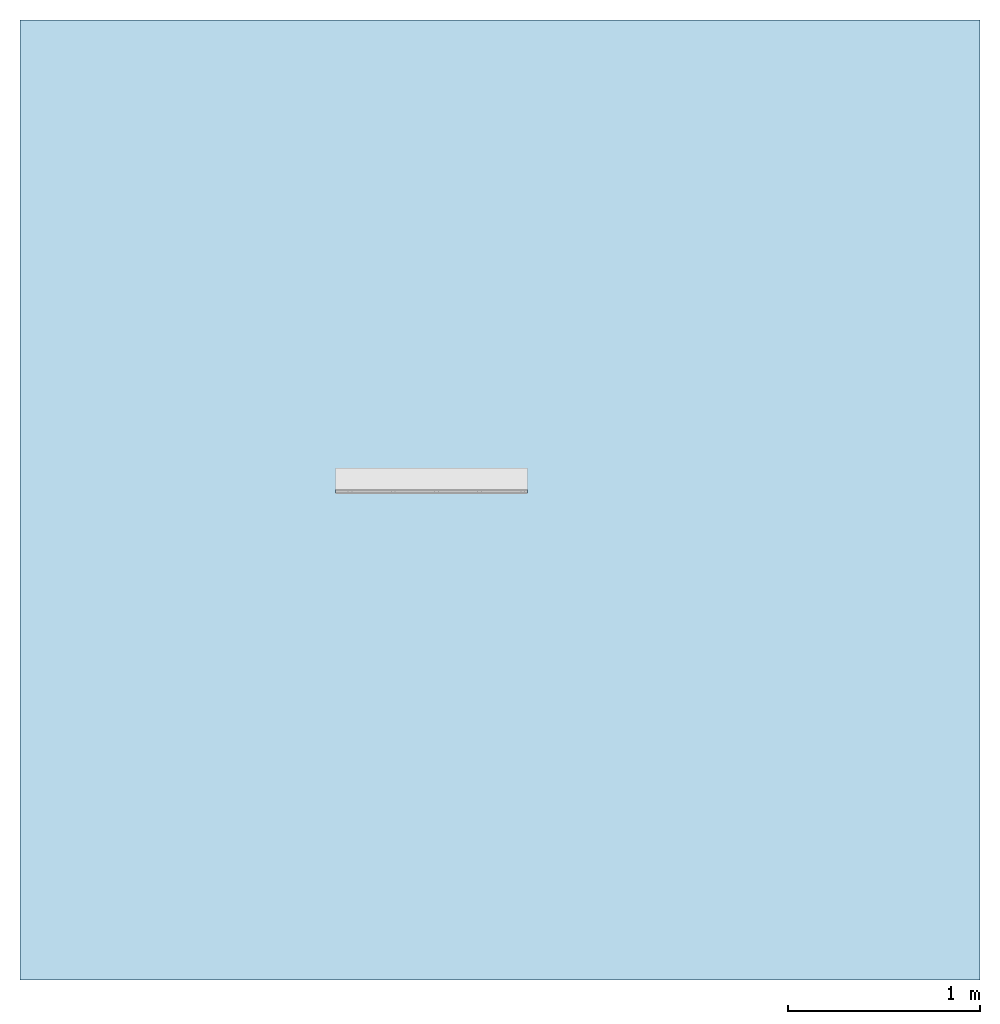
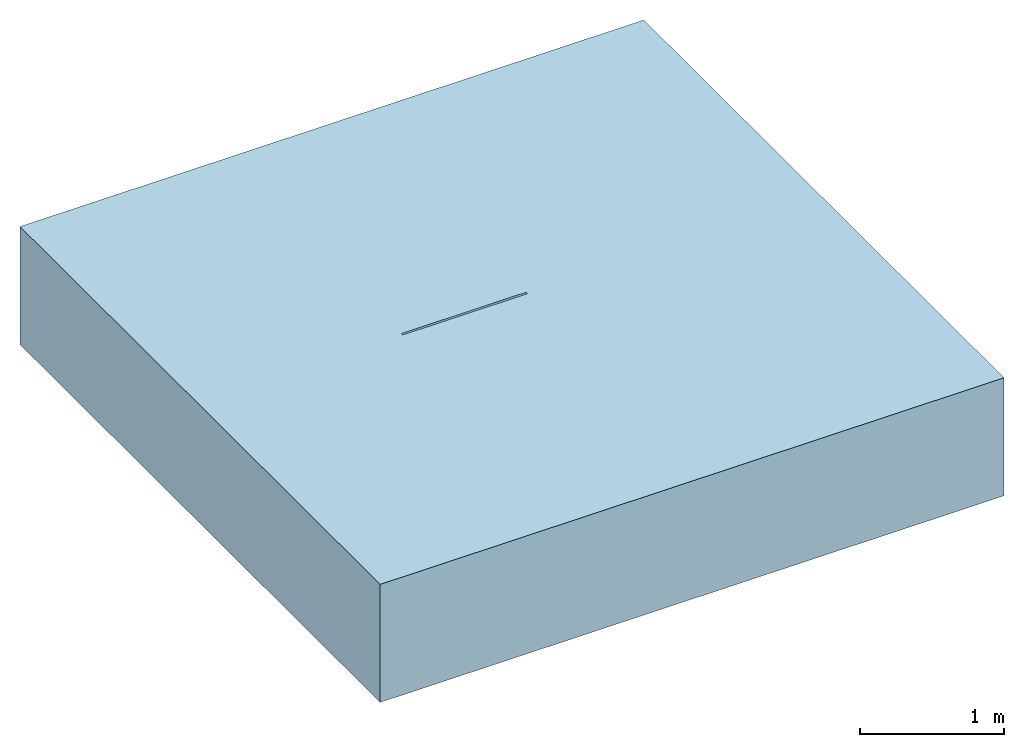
# One storey, part 1 of 2: 1 slab, 2 openings.
"""IFC2X3 building model written with IfcOpenShell, lengths in millimetres."""

from ifc_helpers import new_model, entity, si_unit, converted_unit, direction, frame, frame_2d, origin, place, context, subcontext, project, spatial, polyline, rectangle, outline, extrude, material, layer, layer_set, layer_usage, element, save


model = new_model("IFC2X3")

# Units and contexts
model_context = context("Model", 3, precision=1e-06, world=origin(), true_north=direction((2.0, 6.12303176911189e-17, 1.0)))
context_of_model = context(None, 3, precision=1e-06, world=origin(), true_north=direction((2.0, 6.12303176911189e-17, 1.0)))
body_context = subcontext(model_context, "Body", "Model", "MODEL_VIEW")
ifc_project = project(units=[si_unit("LENGTHUNIT", "METRE", prefix="MILLI"), si_unit("AREAUNIT", "SQUARE_METRE", prefix="MILLI"), si_unit("VOLUMEUNIT", "CUBIC_METRE", prefix="MILLI"), converted_unit("PLANEANGLEUNIT", "DEGREE", entity("IfcRatioMeasure", 0.0174532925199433), si_unit("PLANEANGLEUNIT", "RADIAN"), dimensions=[0, 0, 0, 0, 0, 0, 0]), si_unit("TIMEUNIT", "SECOND")], contexts=[model_context, context_of_model])

# Site, building, storey
site_placement = place(None, origin())
site = spatial("IfcSite", under=ifc_project, at=site_placement, Name="Default", CompositionType="ELEMENT")
building_placement = place(site_placement, origin())
building = spatial("IfcBuilding", under=site, at=building_placement, CompositionType="ELEMENT")
storey_placement = place(building_placement, origin())
storey = spatial("IfcBuildingStorey", under=building, at=storey_placement, Name="Level 1", CompositionType="ELEMENT", Elevation=0.0)

# Slab, openings
ifc_material = material(Name="Earth")
ifc_layer = layer(ifc_material, 1000.0)
ifc_layer_set = layer_set([ifc_layer], Name="Floor:Generic Floor - 1000mm")
ifc_layer_usage = layer_usage(ifc_layer_set, "AXIS3", "POSITIVE", 0.0)
slab_placement = place(storey_placement, origin())
slab = element("IfcSlab", 1, at=slab_placement, inside=storey, material=ifc_layer_usage, Name="Floor:Generic Floor - 1000mm", ObjectType="Floor:Generic Floor - 1000mm", PredefinedType="FLOOR", context=body_context, shape_type="SweptSolid", body=[
    extrude(rectangle(XDim=5000.0, YDim=5000.0, at=frame_2d((0.0, 0.0), x_axis=(0.0, -1.0))), frame((0.0, 0.0, 0.0), z_axis=(0.0, 0.0, -1.0), x_axis=(-1.0, 0.0, 0.0)), (0.0, 0.0, 1.0), 1000.0),
])
opening_1_placement = place(slab_placement, origin())
element("IfcOpeningElement", 2, at=opening_1_placement, cuts=slab, ObjectType="Recess", context=body_context, shape_type="SweptSolid", body=[
    extrude(outline(polyline([(-63.2499999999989, -250.0), (63.2499999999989, -250.0), (63.2499999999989, 250.0), (-63.2499999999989, 250.0), (-63.2499999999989, -250.0)]), holes=[polyline([(-53.2499999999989, -244.0), (-53.2499999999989, 244.0), (45.2499999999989, 244.0), (45.2499999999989, -244.0), (-53.2499999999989, -244.0)])]), frame((-106.343413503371, 99.921892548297, -6605.0), z_axis=(0.0, 0.0, 1.0), x_axis=(0.0, -1.0, 0.0)), (0.0, 0.0, 1.0), 105.0),
])
opening_2_placement = place(slab_placement, origin())
element("IfcOpeningElement", 3, at=opening_2_placement, cuts=slab, ObjectType="Recess", context=body_context, shape_type="SweptSolid", body=[
    extrude(outline(polyline([(-40.3749999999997, -157.500000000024), (94.625, -157.500000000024), (94.625, 17.4999999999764), (-18.125, 17.4999999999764), (-18.125, 122.500000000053), (-36.1250000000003, 122.500000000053), (-36.1250000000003, 17.5000000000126), (-40.3749999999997, 17.4999999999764), (-40.3749999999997, -157.500000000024)])), frame((-856.343413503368, 72.796892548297, -122.500000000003), z_axis=(1.0, 0.0, 0.0), x_axis=(0.0, 1.0, 0.0)), (0.0, 0.0, 1.0), 1000.0),
])

save(model, "model.ifc")
